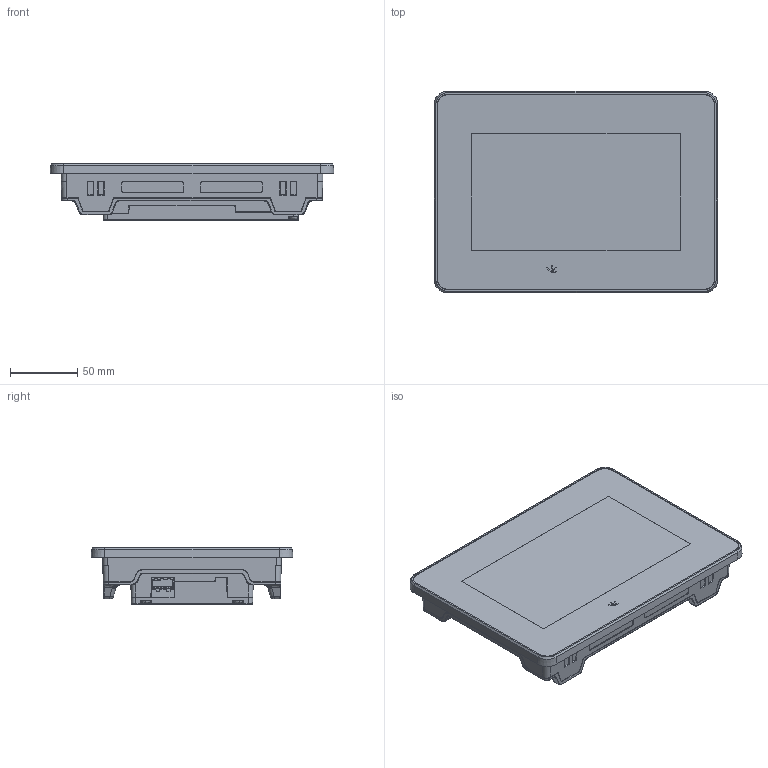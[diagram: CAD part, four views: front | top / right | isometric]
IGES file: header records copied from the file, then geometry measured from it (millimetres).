
Start section: SolidWorks IGES file using analytic representation for surfaces
Global section: file name: Z:\Products\UniStream\Unistream 7\1. Development Files\Design\REV 07 - (after DFM)\CAD FILES\Lite Panel\3D\US7 Lite Panel.IGS; native system: SolidWorks 2017; preprocessor: SolidWorks 2017; author: laorb; date: 190122.113432; units: millimetre
Bounding box: 211.53 x 150.53 x 42.3 mm (x, y, z)
Surface area: 112334.5 mm2 (no closed solid volume)
Topology: 0 solids, 0 shells, 2769 faces, 23722 edges, 23700 vertices
Faces by surface type: bspline 1945, revolution 824
